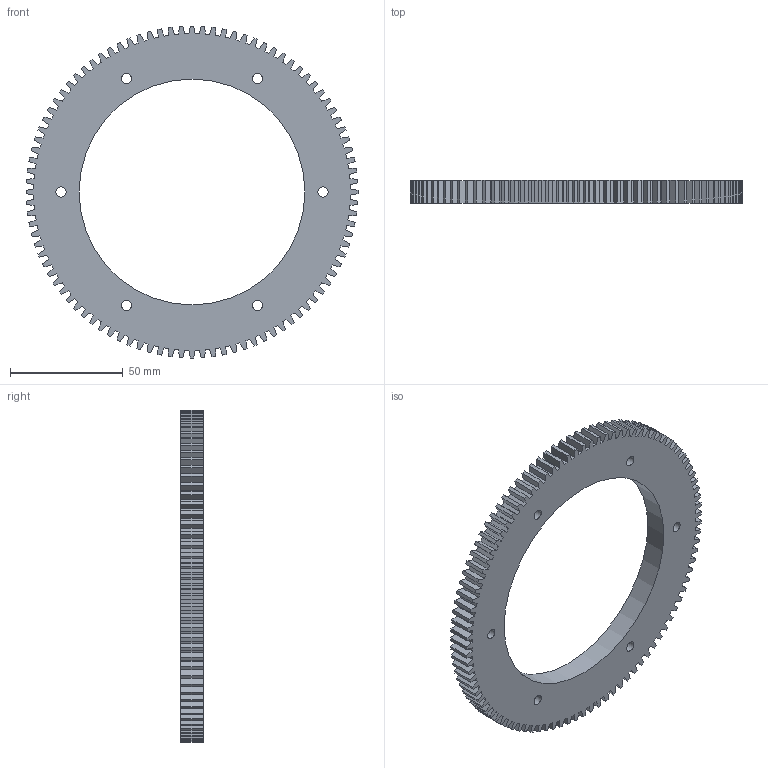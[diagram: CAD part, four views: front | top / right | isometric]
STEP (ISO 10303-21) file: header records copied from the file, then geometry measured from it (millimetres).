
FILE_DESCRIPTION(('Open CASCADE Model'),'2;1');
FILE_NAME('Open CASCADE Shape Model','2026-10-18T22:58:28',('Author'),( 'Open CASCADE'),'Open CASCADE STEP processor 7.9','Open CASCADE 7.9' ,'Unknown');
FILE_SCHEMA(('AUTOMOTIVE_DESIGN { 1 0 10303 214 1 1 1 1 }'));
Length unit declared in the file: millimetre
Products named in the file (1): Open CASCADE STEP translator 7.9 27
Bounding box: 146.99 x 10 x 146.99 mm (x, y, z)
Volume: 81937.5 mm3; surface area: 30219.4 mm2
Topology: 1 solids, 1 shells, 393 faces, 1173 edges, 782 vertices
Faces by surface type: plane 386, cylinder 7
Full cylindrical faces by diameter (mm): 4.5 x6, 100 x1
Entity records: 28264 total; most frequent: CARTESIAN_POINT 4767, DIRECTION 4309, LINE 3491, VECTOR 3491, ORIENTED_EDGE 2346, PCURVE 2346, DEFINITIONAL_REPRESENTATION 2346, EDGE_CURVE 1173
